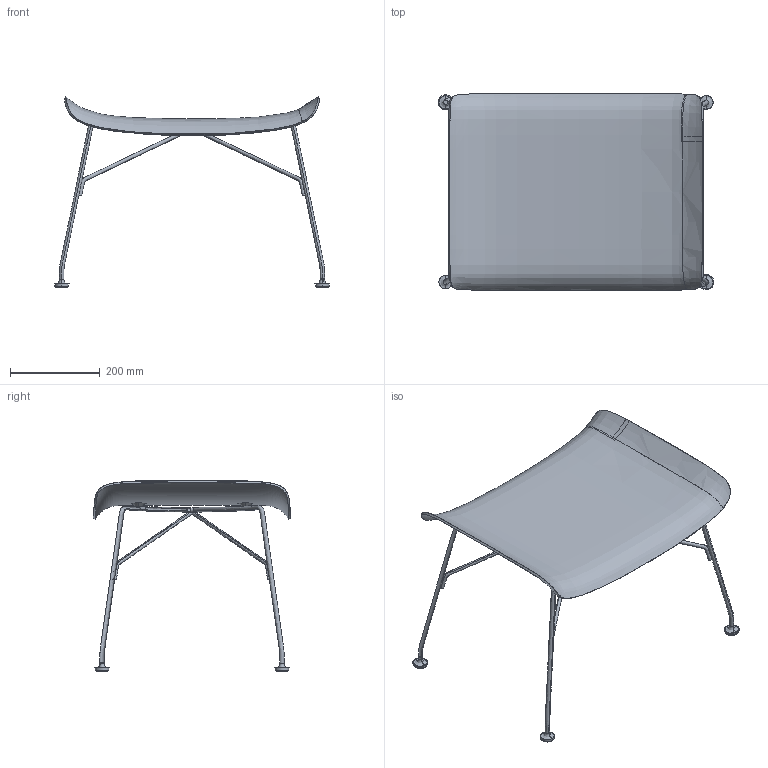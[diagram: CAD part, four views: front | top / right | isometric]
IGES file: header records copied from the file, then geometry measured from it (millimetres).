
Global section: file name: C:\Users\rendering\Desktop\3D\Woody\Ottoman woody\Ottoman_3D_Philippe Starck_Kartell.igs; native system: Rhinoceros ( May 22 2017 ); preprocessor: Trout Lake IGES 012 May 22 2017; date: 190227.105214; units: millimetre
Bounding box: 613.7 x 438.9 x 425.37 mm (x, y, z)
Surface area: 673977.6 mm2 (no closed solid volume)
Topology: 0 solids, 0 shells, 171 faces, 2527 edges, 2521 vertices
Faces by surface type: bspline 171
